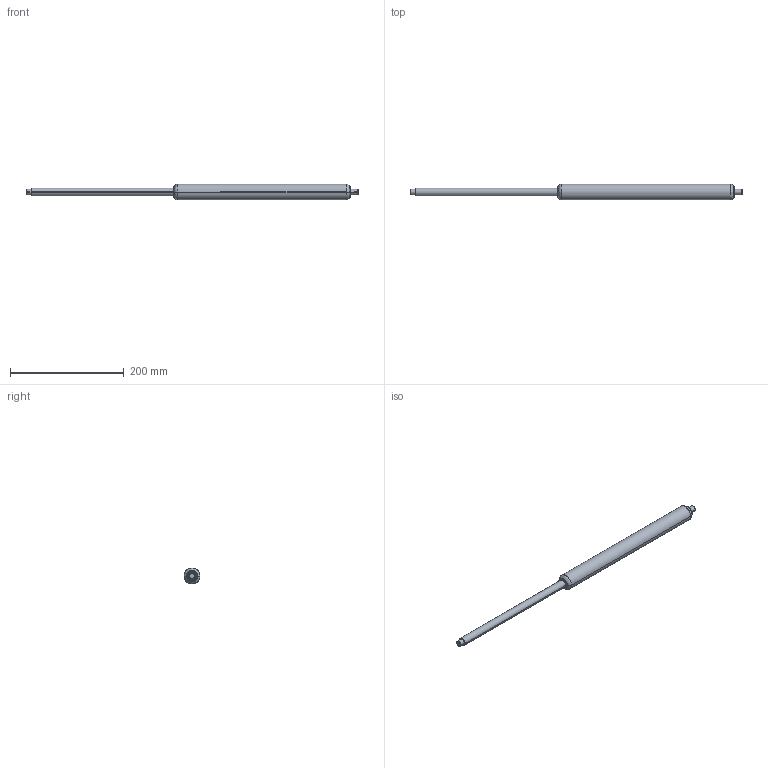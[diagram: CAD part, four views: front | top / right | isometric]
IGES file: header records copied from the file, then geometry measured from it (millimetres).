
Start section: SolidWorks IGES file using analytic representation for surfaces
Global section: file name: Z:\7-3D図面\01.図面\01.L\外形図\Ｇ／Ｓ\20170710(最新)\カタログ用\IGES\FGS-28-250-BB.IGS; native system: SolidWorks 2016; preprocessor: SolidWorks 2016; author: flgijutsu; date: 170710.171653; units: millimetre
Bounding box: 584 x 28 x 28 mm (x, y, z)
Surface area: 40092.7 mm2 (no closed solid volume)
Topology: 0 solids, 0 shells, 31 faces, 360 edges, 360 vertices
Faces by surface type: revolution 22, bspline 9
